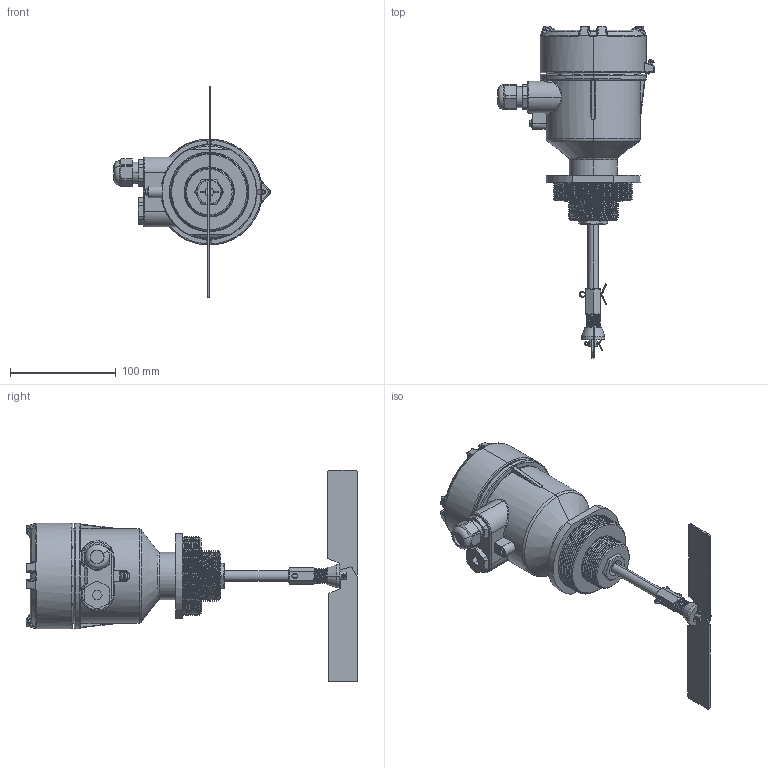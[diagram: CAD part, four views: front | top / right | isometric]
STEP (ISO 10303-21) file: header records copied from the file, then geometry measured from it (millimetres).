
FILE_DESCRIPTION (( 'STEP AP214' ), '1' );
FILE_NAME ('IL-LAA-N-Ex - ñêëàäíàÿ ëîïàñòü - ð.STEP', '2020-12-29T12:11:53', ( '' ), ( '' ), 'SwSTEP 2.0', 'SolidWorks 2020', '' );
FILE_SCHEMA (( 'AUTOMOTIVE_DESIGN' ));
Length unit declared in the file: millimetre
Products named in the file (12): Ëîïàñòü ñêëàäíàÿ; Êðûøêà; Âèíò Ì4; Øïèëüêà 2ìì; IL-LAA-N-Ex - ñêëàäíàÿ ëîïàñòü - ð; Êîðïóñ ñêëàäíàÿ -ð; 幄鼭歑; Øïèëüêà (2); Ïðóæèíà; 扻錝僝鍧; 幄鼭歑 2
Assembly tree (11 placements, depth 3):
  IL-LAA-N-Ex - ñêëàäíàÿ ëîïàñòü - ð
    Êîðïóñ ñêëàäíàÿ -ð
    扻錝僝鍧
    Êðûøêà
    幄鼭歑
    幄鼭歑 2
    Âèíò Ì4
    Øïèëüêà (2)
    Ëîïàñòü ñêëàäíàÿ
      Ëîïàñòü ñêëàäíàÿ
      Øïèëüêà 2ìì
      Ïðóæèíà
Bounding box: 147.53 x 313 x 200 mm (x, y, z)
Volume: 1083068.7 mm3; surface area: 119958 mm2
Topology: 10 solids, 10 shells, 916 faces, 2212 edges, 1263 vertices
Faces by surface type: cylinder 255, bspline 217, plane 175, torus 150, cone 69, sphere 50
Entity records: 50472 total; most frequent: CARTESIAN_POINT 30487, ORIENTED_EDGE 4318, DIRECTION 3926, EDGE_CURVE 2159, AXIS2_PLACEMENT_3D 1685, VERTEX_POINT 1257, CIRCLE 971, EDGE_LOOP 950
